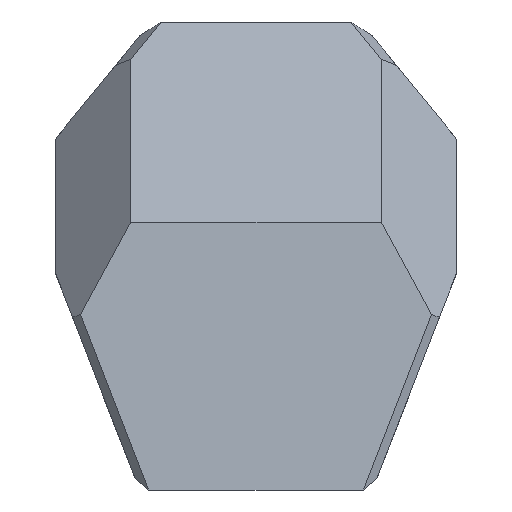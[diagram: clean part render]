
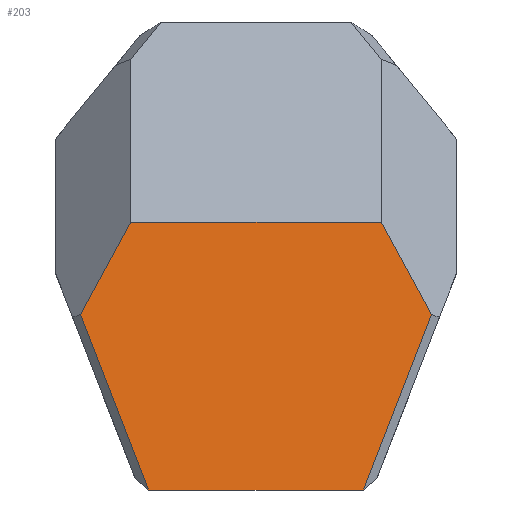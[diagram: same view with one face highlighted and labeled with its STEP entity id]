
A CAD part, top view. The second image highlights one B-rep face of the part: STEP entity #203.
In plain terms, the highlighted planar face has unit normal (0, 0.124, 0.992).
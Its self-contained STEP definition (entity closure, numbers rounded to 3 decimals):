
#5 = VECTOR ( 'NONE', #128, 1000. ) ;
#24 = CARTESIAN_POINT ( 'NONE',  ( 4.576, 0.374, 15.328 ) ) ;
#40 = ORIENTED_EDGE ( 'NONE', *, *, #1279, .T. ) ;
#64 = CARTESIAN_POINT ( 'NONE',  ( 10.34, -10.899, 16.737 ) ) ;
#74 = CARTESIAN_POINT ( 'NONE',  ( -7.5, -5., 16. ) ) ;
#109 = VECTOR ( 'NONE', #1310, 1000. ) ;
#128 = DIRECTION ( 'NONE',  ( -1., 0., 0. ) ) ;
#141 = EDGE_CURVE ( 'NONE', #701, #726, #381, .T. ) ;
#155 = CARTESIAN_POINT ( 'NONE',  ( -6.493, -20.822, 17.978 ) ) ;
#168 = ORIENTED_EDGE ( 'NONE', *, *, #141, .T. ) ;
#169 = CARTESIAN_POINT ( 'NONE',  ( 12., -5., 16. ) ) ;
#203 = ADVANCED_FACE ( 'NONE', ( #398 ), #638, .F. ) ;
#231 = AXIS2_PLACEMENT_3D ( 'NONE', #522, #517, #420 ) ;
#262 = CARTESIAN_POINT ( 'NONE',  ( 12., -21., 18. ) ) ;
#316 = VERTEX_POINT ( 'NONE', #1131 ) ;
#346 = ORIENTED_EDGE ( 'NONE', *, *, #843, .F. ) ;
#347 = VECTOR ( 'NONE', #1204, 1000. ) ;
#381 = LINE ( 'NONE', #169, #109 ) ;
#383 = VERTEX_POINT ( 'NONE', #1489 ) ;
#398 = FACE_OUTER_BOUND ( 'NONE', #741, .T. ) ;
#420 = DIRECTION ( 'NONE',  ( 0., 0.992, -0.124 ) ) ;
#470 = LINE ( 'NONE', #262, #5 ) ;
#501 = LINE ( 'NONE', #155, #1233 ) ;
#504 = EDGE_CURVE ( 'NONE', #1375, #701, #1161, .T. ) ;
#517 = DIRECTION ( 'NONE',  ( 0., -0.124, -0.992 ) ) ;
#522 = CARTESIAN_POINT ( 'NONE',  ( 12., -21., 18. ) ) ;
#620 = EDGE_CURVE ( 'NONE', #726, #383, #626, .T. ) ;
#626 = LINE ( 'NONE', #74, #347 ) ;
#638 = PLANE ( 'NONE',  #231 ) ;
#701 = VERTEX_POINT ( 'NONE', #1479 ) ;
#726 = VERTEX_POINT ( 'NONE', #1488 ) ;
#733 = VECTOR ( 'NONE', #1284, 1000. ) ;
#741 = EDGE_LOOP ( 'NONE', ( #346, #823, #835, #168, #1250, #40 ) ) ;
#823 = ORIENTED_EDGE ( 'NONE', *, *, #1372, .T. ) ;
#835 = ORIENTED_EDGE ( 'NONE', *, *, #504, .T. ) ;
#843 = EDGE_CURVE ( 'NONE', #1459, #316, #470, .T. ) ;
#981 = LINE ( 'NONE', #64, #1438 ) ;
#1073 = DIRECTION ( 'NONE',  ( 0.359, -0.926, 0.116 ) ) ;
#1103 = DIRECTION ( 'NONE',  ( 0.359, 0.926, -0.116 ) ) ;
#1131 = CARTESIAN_POINT ( 'NONE',  ( -6.424, -21., 18. ) ) ;
#1161 = LINE ( 'NONE', #24, #733 ) ;
#1204 = DIRECTION ( 'NONE',  ( -0.475, -0.873, 0.109 ) ) ;
#1233 = VECTOR ( 'NONE', #1073, 1000. ) ;
#1238 = CARTESIAN_POINT ( 'NONE',  ( 6.424, -21., 18. ) ) ;
#1250 = ORIENTED_EDGE ( 'NONE', *, *, #620, .T. ) ;
#1279 = EDGE_CURVE ( 'NONE', #383, #316, #501, .T. ) ;
#1284 = DIRECTION ( 'NONE',  ( -0.475, 0.873, -0.109 ) ) ;
#1310 = DIRECTION ( 'NONE',  ( -1., 0., 0. ) ) ;
#1348 = CARTESIAN_POINT ( 'NONE',  ( 10.494, -10.502, 16.688 ) ) ;
#1372 = EDGE_CURVE ( 'NONE', #1459, #1375, #981, .T. ) ;
#1375 = VERTEX_POINT ( 'NONE', #1348 ) ;
#1438 = VECTOR ( 'NONE', #1103, 1000. ) ;
#1459 = VERTEX_POINT ( 'NONE', #1238 ) ;
#1479 = CARTESIAN_POINT ( 'NONE',  ( 7.5, -5., 16. ) ) ;
#1488 = CARTESIAN_POINT ( 'NONE',  ( -7.5, -5., 16. ) ) ;
#1489 = CARTESIAN_POINT ( 'NONE',  ( -10.494, -10.502, 16.688 ) ) ;
